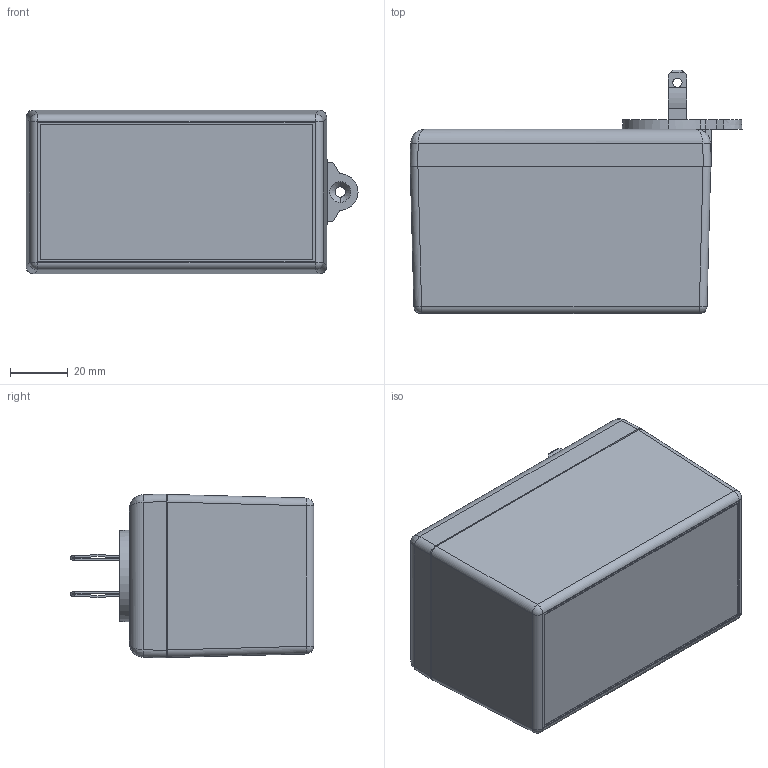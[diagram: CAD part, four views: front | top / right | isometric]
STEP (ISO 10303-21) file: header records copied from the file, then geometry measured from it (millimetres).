
FILE_DESCRIPTION (( 'STEP AP214' ), '1' );
FILE_NAME ('PM2425T02XWT.STEP', '2010-07-15T14:19:12', ( '' ), ( '' ), 'SwSTEP 2.0', 'SolidWorks 2010', '' );
FILE_SCHEMA (( 'AUTOMOTIVE_DESIGN' ));
Length unit declared in the file: inch
Products named in the file (8): TS-2420B AND PM2420_TS-2420BP; B2405 ASS''Y_B24052XWT; MPB2405_MPB24052WT; BLADES; WELD DISC-PS-BK; SCREWS-HL1-BR; B2405-PCB; PM2425T02XWT
Assembly tree (11 placements, depth 3):
  PM2425T02XWT
    SCREWS-HL1-BR  x4
    B2405-PCB
    B2405 ASS''Y_B24052XWT
      WELD DISC-PS-BK
      BLADES  x2
      MPB2405_MPB24052WT
    TS-2420B AND PM2420_TS-2420BP
Bounding box: 115.34 x 84.55 x 56.95 mm (x, y, z)
Volume: 89644.9 mm3; surface area: 82522.9 mm2
Topology: 10 solids, 10 shells, 888 faces, 2474 edges, 1614 vertices
Faces by surface type: cylinder 488, plane 274, cone 82, bspline 28, sphere 12, torus 4
Entity records: 18471 total; most frequent: CARTESIAN_POINT 6148, ORIENTED_EDGE 2662, DIRECTION 2375, EDGE_CURVE 1331, VERTEX_POINT 864, AXIS2_PLACEMENT_3D 838, VECTOR 699, LINE 699
